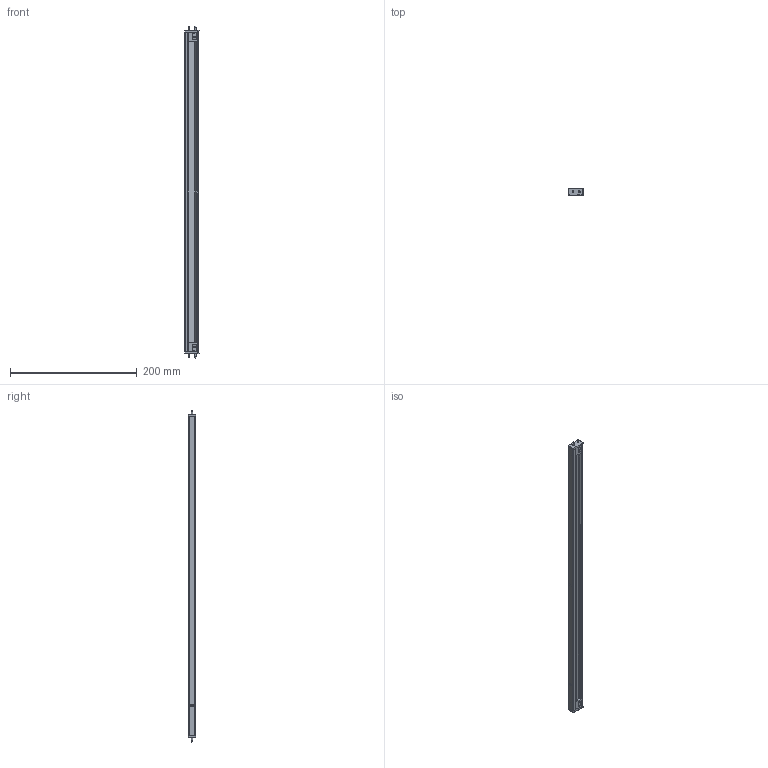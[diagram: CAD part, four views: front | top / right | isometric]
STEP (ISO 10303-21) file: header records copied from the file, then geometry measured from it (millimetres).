
FILE_DESCRIPTION (( 'STEP AP214' ), '1' );
FILE_NAME ('2000518 Kiton EDC 511 mm.STEP', '2022-11-14T07:01:07', ( '' ), ( '' ), 'SwSTEP 2.0', 'SolidWorks 2021', '' );
FILE_SCHEMA (( 'AUTOMOTIVE_DESIGN' ));
Length unit declared in the file: millimetre
Products named in the file (11): STRIP REEL 180 LED METRO 5.25mm; SUPPORTO TESTATA_SUPPORTO TESTATA SX; 2000518 Kiton EDC 511 mm; 6201093 Konsole rechts_511 mm; 6201094 PROFILO LAMPADA_511; TESTATA_TESTATA DX; sheet metal screws_din_Tapping screw DIN 7049-ST2.2x9.5-C-H-C; TESTATA_TESTATA SX; SENSORE PROG. PROXIMITY; SUPPORTO TESTATA_SUPPORTO TESTATA DX; VITE TS TORX 2x6
Assembly tree (20 placements, depth 2):
  2000518 Kiton EDC 511 mm
    6201094 PROFILO LAMPADA_511
    6201093 Konsole rechts_511 mm
    TESTATA_TESTATA DX
    TESTATA_TESTATA SX
    SUPPORTO TESTATA_SUPPORTO TESTATA DX
    SUPPORTO TESTATA_SUPPORTO TESTATA SX
    SENSORE PROG. PROXIMITY  x2
    STRIP REEL 180 LED METRO 5.25mm  x7
    sheet metal screws_din_Tapping screw DIN 7049-ST2.2x9.5-C-H-C  x4
    VITE TS TORX 2x6
Bounding box: 22.2 x 11.46 x 524.26 mm (x, y, z)
Volume: 57984.7 mm3; surface area: 83577.3 mm2
Topology: 20 solids, 20 shells, 1637 faces, 4482 edges, 2975 vertices
Faces by surface type: plane 1206, cylinder 317, bspline 83, cone 15, sphere 12, torus 4
Entity records: 40450 total; most frequent: CARTESIAN_POINT 13968, ORIENTED_EDGE 5342, DIRECTION 4299, EDGE_CURVE 2671, VECTOR 2003, LINE 2003, VERTEX_POINT 1774, AXIS2_PLACEMENT_3D 1148
